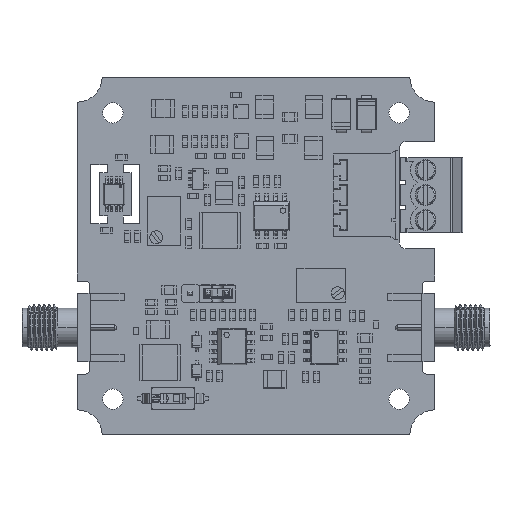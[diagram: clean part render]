
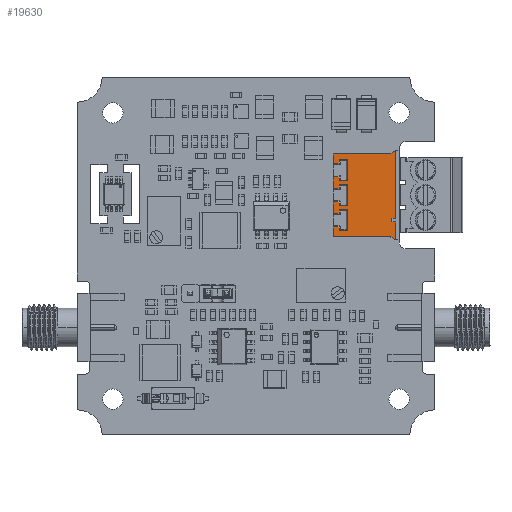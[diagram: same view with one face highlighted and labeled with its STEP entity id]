
A CAD part, top view. The second image highlights one B-rep face of the part: STEP entity #19630.
In plain terms, the highlighted planar face has unit normal (0, 0, 1) as drawn and (0, 1, 0) by its records, which use the part's own axes.
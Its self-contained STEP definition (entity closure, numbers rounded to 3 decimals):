
#19319 = VERTEX_POINT('',#19320);
#19320 = CARTESIAN_POINT('',(-6.25,4.,-0.5));
#19436 = VERTEX_POINT('',#19437);
#19437 = CARTESIAN_POINT('',(6.25,4.,-0.5));
#19469 = VERTEX_POINT('',#19470);
#19470 = CARTESIAN_POINT('',(5.75,4.,-1.3));
#19476 = EDGE_CURVE('',#19469,#19436,#19477,.T.);
#19477 = LINE('',#19478,#19479);
#19478 = CARTESIAN_POINT('',(5.75,4.,-1.3));
#19479 = VECTOR('',#19480,1.);
#19480 = DIRECTION('',(0.53,0.,0.848));
#19491 = VERTEX_POINT('',#19492);
#19492 = CARTESIAN_POINT('',(-3.25,4.,-0.5));
#19500 = EDGE_CURVE('',#19436,#19491,#19501,.T.);
#19501 = LINE('',#19502,#19503);
#19502 = CARTESIAN_POINT('',(-3.75,4.,-0.5));
#19503 = VECTOR('',#19504,1.);
#19504 = DIRECTION('',(-1.,0.,0.));
#19515 = VERTEX_POINT('',#19516);
#19516 = CARTESIAN_POINT('',(-3.25,4.,-1.));
#19524 = EDGE_CURVE('',#19491,#19515,#19525,.T.);
#19525 = LINE('',#19526,#19527);
#19526 = CARTESIAN_POINT('',(-3.25,4.,-0.5));
#19527 = VECTOR('',#19528,1.);
#19528 = DIRECTION('',(0.,0.,-1.));
#19539 = VERTEX_POINT('',#19540);
#19540 = CARTESIAN_POINT('',(-3.75,4.,-1.));
#19548 = EDGE_CURVE('',#19515,#19539,#19549,.T.);
#19549 = LINE('',#19550,#19551);
#19550 = CARTESIAN_POINT('',(-3.25,4.,-1.));
#19551 = VECTOR('',#19552,1.);
#19552 = DIRECTION('',(-1.,0.,0.));
#19563 = VERTEX_POINT('',#19564);
#19564 = CARTESIAN_POINT('',(-3.75,4.,-0.5));
#19572 = EDGE_CURVE('',#19539,#19563,#19573,.T.);
#19573 = LINE('',#19574,#19575);
#19574 = CARTESIAN_POINT('',(-3.75,4.,-1.));
#19575 = VECTOR('',#19576,1.);
#19576 = DIRECTION('',(0.,0.,1.));
#19589 = EDGE_CURVE('',#19319,#19563,#19590,.T.);
#19590 = LINE('',#19591,#19592);
#19591 = CARTESIAN_POINT('',(-6.25,4.,-0.5));
#19592 = VECTOR('',#19593,1.);
#19593 = DIRECTION('',(1.,0.,0.));
#19604 = VERTEX_POINT('',#19605);
#19605 = CARTESIAN_POINT('',(-5.75,4.,-1.3));
#19620 = EDGE_CURVE('',#19319,#19604,#19621,.T.);
#19621 = LINE('',#19622,#19623);
#19622 = CARTESIAN_POINT('',(-6.25,4.,-0.5));
#19623 = VECTOR('',#19624,1.);
#19624 = DIRECTION('',(0.53,0.,-0.848));
#19630 = ADVANCED_FACE('',(#19631),#19854,.F.);
#19631 = FACE_BOUND('',#19632,.T.);
#19632 = EDGE_LOOP('',(#19633,#19641,#19649,#19657,#19665,#19673,#19681,
    #19689,#19697,#19705,#19713,#19721,#19729,#19737,#19745,#19753,
    #19761,#19769,#19777,#19785,#19793,#19801,#19809,#19817,#19825,
    #19833,#19841,#19847,#19848,#19849,#19850,#19851,#19852,#19853));
#19633 = ORIENTED_EDGE('',*,*,#19634,.F.);
#19634 = EDGE_CURVE('',#19635,#19469,#19637,.T.);
#19635 = VERTEX_POINT('',#19636);
#19636 = CARTESIAN_POINT('',(5.75,4.,-9.2));
#19637 = LINE('',#19638,#19639);
#19638 = CARTESIAN_POINT('',(5.75,4.,-9.2));
#19639 = VECTOR('',#19640,1.);
#19640 = DIRECTION('',(0.,0.,1.));
#19641 = ORIENTED_EDGE('',*,*,#19642,.F.);
#19642 = EDGE_CURVE('',#19643,#19635,#19645,.T.);
#19643 = VERTEX_POINT('',#19644);
#19644 = CARTESIAN_POINT('',(4.45,4.,-9.2));
#19645 = LINE('',#19646,#19647);
#19646 = CARTESIAN_POINT('',(4.45,4.,-9.2));
#19647 = VECTOR('',#19648,1.);
#19648 = DIRECTION('',(1.,0.,0.));
#19649 = ORIENTED_EDGE('',*,*,#19650,.T.);
#19650 = EDGE_CURVE('',#19643,#19651,#19653,.T.);
#19651 = VERTEX_POINT('',#19652);
#19652 = CARTESIAN_POINT('',(4.45,4.,-8.4));
#19653 = LINE('',#19654,#19655);
#19654 = CARTESIAN_POINT('',(4.45,4.,-9.2));
#19655 = VECTOR('',#19656,1.);
#19656 = DIRECTION('',(0.,0.,1.));
#19657 = ORIENTED_EDGE('',*,*,#19658,.T.);
#19658 = EDGE_CURVE('',#19651,#19659,#19661,.T.);
#19659 = VERTEX_POINT('',#19660);
#19660 = CARTESIAN_POINT('',(5.,4.,-8.4));
#19661 = LINE('',#19662,#19663);
#19662 = CARTESIAN_POINT('',(-6.294,4.,-8.4));
#19663 = VECTOR('',#19664,1.);
#19664 = DIRECTION('',(1.,0.,0.));
#19665 = ORIENTED_EDGE('',*,*,#19666,.T.);
#19666 = EDGE_CURVE('',#19659,#19667,#19669,.T.);
#19667 = VERTEX_POINT('',#19668);
#19668 = CARTESIAN_POINT('',(5.,4.,-7.2));
#19669 = LINE('',#19670,#19671);
#19670 = CARTESIAN_POINT('',(5.,4.,-8.4));
#19671 = VECTOR('',#19672,1.);
#19672 = DIRECTION('',(0.,0.,1.));
#19673 = ORIENTED_EDGE('',*,*,#19674,.T.);
#19674 = EDGE_CURVE('',#19667,#19675,#19677,.T.);
#19675 = VERTEX_POINT('',#19676);
#19676 = CARTESIAN_POINT('',(2.,4.,-7.2));
#19677 = LINE('',#19678,#19679);
#19678 = CARTESIAN_POINT('',(6.289,4.,-7.2));
#19679 = VECTOR('',#19680,1.);
#19680 = DIRECTION('',(-1.,0.,0.));
#19681 = ORIENTED_EDGE('',*,*,#19682,.T.);
#19682 = EDGE_CURVE('',#19675,#19683,#19685,.T.);
#19683 = VERTEX_POINT('',#19684);
#19684 = CARTESIAN_POINT('',(2.,4.,-8.4));
#19685 = LINE('',#19686,#19687);
#19686 = CARTESIAN_POINT('',(2.,4.,-7.2));
#19687 = VECTOR('',#19688,1.);
#19688 = DIRECTION('',(0.,0.,-1.));
#19689 = ORIENTED_EDGE('',*,*,#19690,.T.);
#19690 = EDGE_CURVE('',#19683,#19691,#19693,.T.);
#19691 = VERTEX_POINT('',#19692);
#19692 = CARTESIAN_POINT('',(2.55,4.,-8.4));
#19693 = LINE('',#19694,#19695);
#19694 = CARTESIAN_POINT('',(-6.294,4.,-8.4));
#19695 = VECTOR('',#19696,1.);
#19696 = DIRECTION('',(1.,0.,0.));
#19697 = ORIENTED_EDGE('',*,*,#19698,.T.);
#19698 = EDGE_CURVE('',#19691,#19699,#19701,.T.);
#19699 = VERTEX_POINT('',#19700);
#19700 = CARTESIAN_POINT('',(2.55,4.,-9.2));
#19701 = LINE('',#19702,#19703);
#19702 = CARTESIAN_POINT('',(2.55,4.,-8.4));
#19703 = VECTOR('',#19704,1.);
#19704 = DIRECTION('',(0.,0.,-1.));
#19705 = ORIENTED_EDGE('',*,*,#19706,.F.);
#19706 = EDGE_CURVE('',#19707,#19699,#19709,.T.);
#19707 = VERTEX_POINT('',#19708);
#19708 = CARTESIAN_POINT('',(0.951,4.,-9.2));
#19709 = LINE('',#19710,#19711);
#19710 = CARTESIAN_POINT('',(0.951,4.,-9.2));
#19711 = VECTOR('',#19712,1.);
#19712 = DIRECTION('',(1.,0.,0.));
#19713 = ORIENTED_EDGE('',*,*,#19714,.T.);
#19714 = EDGE_CURVE('',#19707,#19715,#19717,.T.);
#19715 = VERTEX_POINT('',#19716);
#19716 = CARTESIAN_POINT('',(0.951,4.,-8.4));
#19717 = LINE('',#19718,#19719);
#19718 = CARTESIAN_POINT('',(0.951,4.,-9.2));
#19719 = VECTOR('',#19720,1.);
#19720 = DIRECTION('',(0.,0.,1.));
#19721 = ORIENTED_EDGE('',*,*,#19722,.T.);
#19722 = EDGE_CURVE('',#19715,#19723,#19725,.T.);
#19723 = VERTEX_POINT('',#19724);
#19724 = CARTESIAN_POINT('',(1.501,4.,-8.4));
#19725 = LINE('',#19726,#19727);
#19726 = CARTESIAN_POINT('',(0.951,4.,-8.4));
#19727 = VECTOR('',#19728,1.);
#19728 = DIRECTION('',(1.,0.,0.));
#19729 = ORIENTED_EDGE('',*,*,#19730,.T.);
#19730 = EDGE_CURVE('',#19723,#19731,#19733,.T.);
#19731 = VERTEX_POINT('',#19732);
#19732 = CARTESIAN_POINT('',(1.501,4.,-7.2));
#19733 = LINE('',#19734,#19735);
#19734 = CARTESIAN_POINT('',(1.501,4.,-8.4));
#19735 = VECTOR('',#19736,1.);
#19736 = DIRECTION('',(0.,0.,1.));
#19737 = ORIENTED_EDGE('',*,*,#19738,.T.);
#19738 = EDGE_CURVE('',#19731,#19739,#19741,.T.);
#19739 = VERTEX_POINT('',#19740);
#19740 = CARTESIAN_POINT('',(-1.5,4.,-7.2));
#19741 = LINE('',#19742,#19743);
#19742 = CARTESIAN_POINT('',(1.501,4.,-7.2));
#19743 = VECTOR('',#19744,1.);
#19744 = DIRECTION('',(-1.,0.,0.));
#19745 = ORIENTED_EDGE('',*,*,#19746,.T.);
#19746 = EDGE_CURVE('',#19739,#19747,#19749,.T.);
#19747 = VERTEX_POINT('',#19748);
#19748 = CARTESIAN_POINT('',(-1.5,4.,-8.4));
#19749 = LINE('',#19750,#19751);
#19750 = CARTESIAN_POINT('',(-1.5,4.,-7.2));
#19751 = VECTOR('',#19752,1.);
#19752 = DIRECTION('',(0.,0.,-1.));
#19753 = ORIENTED_EDGE('',*,*,#19754,.T.);
#19754 = EDGE_CURVE('',#19747,#19755,#19757,.T.);
#19755 = VERTEX_POINT('',#19756);
#19756 = CARTESIAN_POINT('',(-0.95,4.,-8.4));
#19757 = LINE('',#19758,#19759);
#19758 = CARTESIAN_POINT('',(-1.5,4.,-8.4));
#19759 = VECTOR('',#19760,1.);
#19760 = DIRECTION('',(1.,0.,0.));
#19761 = ORIENTED_EDGE('',*,*,#19762,.T.);
#19762 = EDGE_CURVE('',#19755,#19763,#19765,.T.);
#19763 = VERTEX_POINT('',#19764);
#19764 = CARTESIAN_POINT('',(-0.95,4.,-9.2));
#19765 = LINE('',#19766,#19767);
#19766 = CARTESIAN_POINT('',(-0.95,4.,-8.4));
#19767 = VECTOR('',#19768,1.);
#19768 = DIRECTION('',(0.,0.,-1.));
#19769 = ORIENTED_EDGE('',*,*,#19770,.F.);
#19770 = EDGE_CURVE('',#19771,#19763,#19773,.T.);
#19771 = VERTEX_POINT('',#19772);
#19772 = CARTESIAN_POINT('',(-2.55,4.,-9.2));
#19773 = LINE('',#19774,#19775);
#19774 = CARTESIAN_POINT('',(-2.55,4.,-9.2));
#19775 = VECTOR('',#19776,1.);
#19776 = DIRECTION('',(1.,0.,0.));
#19777 = ORIENTED_EDGE('',*,*,#19778,.T.);
#19778 = EDGE_CURVE('',#19771,#19779,#19781,.T.);
#19779 = VERTEX_POINT('',#19780);
#19780 = CARTESIAN_POINT('',(-2.55,4.,-8.4));
#19781 = LINE('',#19782,#19783);
#19782 = CARTESIAN_POINT('',(-2.55,4.,-9.2));
#19783 = VECTOR('',#19784,1.);
#19784 = DIRECTION('',(0.,0.,1.));
#19785 = ORIENTED_EDGE('',*,*,#19786,.T.);
#19786 = EDGE_CURVE('',#19779,#19787,#19789,.T.);
#19787 = VERTEX_POINT('',#19788);
#19788 = CARTESIAN_POINT('',(-2.,4.,-8.4));
#19789 = LINE('',#19790,#19791);
#19790 = CARTESIAN_POINT('',(-6.294,4.,-8.4));
#19791 = VECTOR('',#19792,1.);
#19792 = DIRECTION('',(1.,0.,0.));
#19793 = ORIENTED_EDGE('',*,*,#19794,.T.);
#19794 = EDGE_CURVE('',#19787,#19795,#19797,.T.);
#19795 = VERTEX_POINT('',#19796);
#19796 = CARTESIAN_POINT('',(-2.,4.,-7.2));
#19797 = LINE('',#19798,#19799);
#19798 = CARTESIAN_POINT('',(-2.,4.,-8.4));
#19799 = VECTOR('',#19800,1.);
#19800 = DIRECTION('',(0.,0.,1.));
#19801 = ORIENTED_EDGE('',*,*,#19802,.T.);
#19802 = EDGE_CURVE('',#19795,#19803,#19805,.T.);
#19803 = VERTEX_POINT('',#19804);
#19804 = CARTESIAN_POINT('',(-5.,4.,-7.2));
#19805 = LINE('',#19806,#19807);
#19806 = CARTESIAN_POINT('',(6.289,4.,-7.2));
#19807 = VECTOR('',#19808,1.);
#19808 = DIRECTION('',(-1.,0.,0.));
#19809 = ORIENTED_EDGE('',*,*,#19810,.T.);
#19810 = EDGE_CURVE('',#19803,#19811,#19813,.T.);
#19811 = VERTEX_POINT('',#19812);
#19812 = CARTESIAN_POINT('',(-5.,4.,-8.4));
#19813 = LINE('',#19814,#19815);
#19814 = CARTESIAN_POINT('',(-5.,4.,-7.2));
#19815 = VECTOR('',#19816,1.);
#19816 = DIRECTION('',(0.,0.,-1.));
#19817 = ORIENTED_EDGE('',*,*,#19818,.T.);
#19818 = EDGE_CURVE('',#19811,#19819,#19821,.T.);
#19819 = VERTEX_POINT('',#19820);
#19820 = CARTESIAN_POINT('',(-4.45,4.,-8.4));
#19821 = LINE('',#19822,#19823);
#19822 = CARTESIAN_POINT('',(-6.294,4.,-8.4));
#19823 = VECTOR('',#19824,1.);
#19824 = DIRECTION('',(1.,0.,0.));
#19825 = ORIENTED_EDGE('',*,*,#19826,.T.);
#19826 = EDGE_CURVE('',#19819,#19827,#19829,.T.);
#19827 = VERTEX_POINT('',#19828);
#19828 = CARTESIAN_POINT('',(-4.45,4.,-9.2));
#19829 = LINE('',#19830,#19831);
#19830 = CARTESIAN_POINT('',(-4.45,4.,-8.4));
#19831 = VECTOR('',#19832,1.);
#19832 = DIRECTION('',(0.,0.,-1.));
#19833 = ORIENTED_EDGE('',*,*,#19834,.F.);
#19834 = EDGE_CURVE('',#19835,#19827,#19837,.T.);
#19835 = VERTEX_POINT('',#19836);
#19836 = CARTESIAN_POINT('',(-5.75,4.,-9.2));
#19837 = LINE('',#19838,#19839);
#19838 = CARTESIAN_POINT('',(-5.75,4.,-9.2));
#19839 = VECTOR('',#19840,1.);
#19840 = DIRECTION('',(1.,0.,0.));
#19841 = ORIENTED_EDGE('',*,*,#19842,.F.);
#19842 = EDGE_CURVE('',#19604,#19835,#19843,.T.);
#19843 = LINE('',#19844,#19845);
#19844 = CARTESIAN_POINT('',(-5.75,4.,-1.3));
#19845 = VECTOR('',#19846,1.);
#19846 = DIRECTION('',(0.,0.,-1.));
#19847 = ORIENTED_EDGE('',*,*,#19620,.F.);
#19848 = ORIENTED_EDGE('',*,*,#19589,.T.);
#19849 = ORIENTED_EDGE('',*,*,#19572,.F.);
#19850 = ORIENTED_EDGE('',*,*,#19548,.F.);
#19851 = ORIENTED_EDGE('',*,*,#19524,.F.);
#19852 = ORIENTED_EDGE('',*,*,#19500,.F.);
#19853 = ORIENTED_EDGE('',*,*,#19476,.F.);
#19854 = PLANE('',#19855);
#19855 = AXIS2_PLACEMENT_3D('',#19856,#19857,#19858);
#19856 = CARTESIAN_POINT('',(0.,4.,0.));
#19857 = DIRECTION('',(0.,-1.,0.));
#19858 = DIRECTION('',(1.,0.,0.));
